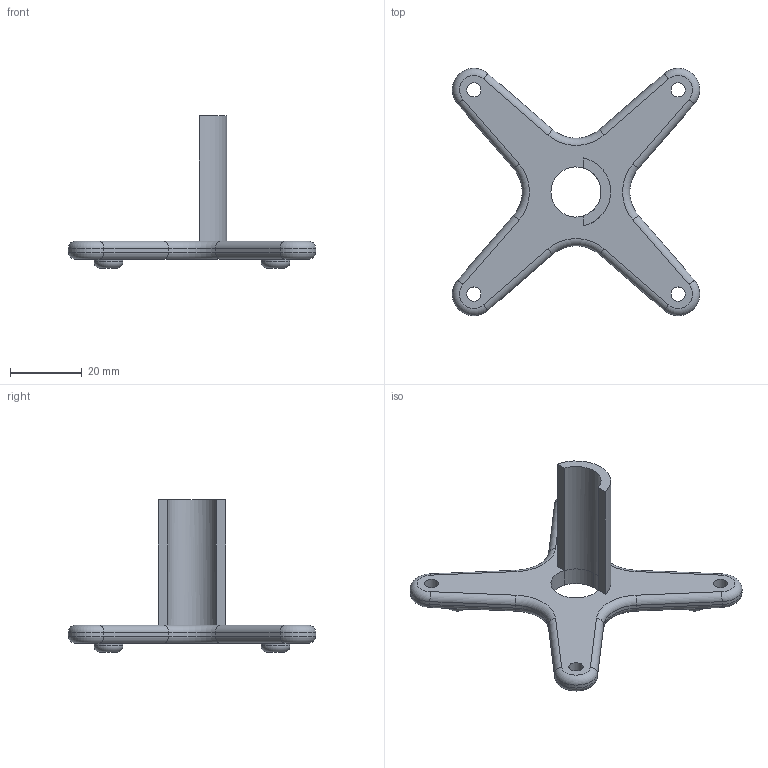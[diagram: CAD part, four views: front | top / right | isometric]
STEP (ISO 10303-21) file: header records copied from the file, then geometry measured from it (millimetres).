
FILE_DESCRIPTION(('FreeCAD Model'),'2;1');
FILE_NAME('Open CASCADE Shape Model','2021-07-26T18:43:55',('Author'),( ''),'Open CASCADE STEP processor 7.4','FreeCAD','Unknown');
FILE_SCHEMA(('AUTOMOTIVE_DESIGN { 1 0 10303 214 1 1 1 1 }'));
Length unit declared in the file: millimetre
Products named in the file (1): Sharpie
Bounding box: 69.01 x 69.01 x 42.5 mm (x, y, z)
Volume: 12954.9 mm3; surface area: 7820.1 mm2
Topology: 1 solids, 1 shells, 75 faces, 167 edges, 98 vertices
Faces by surface type: cylinder 37, torus 20, plane 18
Full cylindrical faces by diameter (mm): 4 x4, 8 x4
Entity records: 4243 total; most frequent: CARTESIAN_POINT 805, DIRECTION 666, ORIENTED_EDGE 334, PCURVE 334, DEFINITIONAL_REPRESENTATION 334, LINE 286, VECTOR 286, AXIS2_PLACEMENT_3D 174
